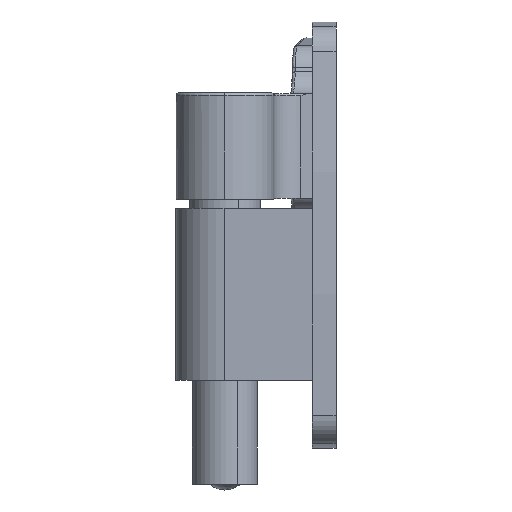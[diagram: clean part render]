
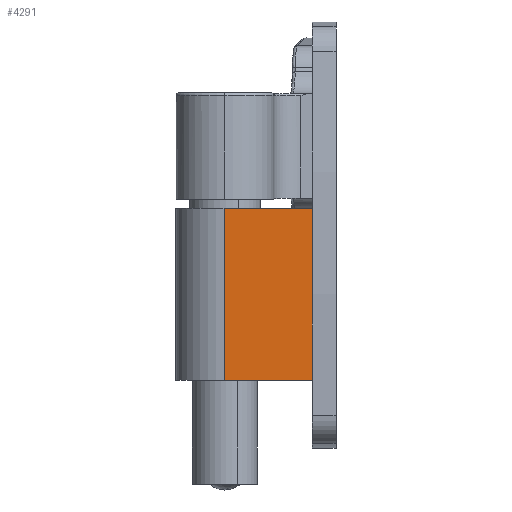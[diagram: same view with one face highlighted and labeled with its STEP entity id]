
A CAD part, left-side view. The second image highlights one B-rep face of the part: STEP entity #4291.
In plain terms, the highlighted planar face has unit normal (-1, 0.017, 0).
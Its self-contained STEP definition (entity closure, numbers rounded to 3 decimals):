
#185 = DIRECTION ( 'NONE',  ( 0.017, 1., 0. ) ) ;
#499 = CARTESIAN_POINT ( 'NONE',  ( -17.13, 0.289, 112.5 ) ) ;
#541 = CARTESIAN_POINT ( 'NONE',  ( -17., 8., 21.5 ) ) ;
#722 = CARTESIAN_POINT ( 'NONE',  ( -16.498, 37.778, 21.5 ) ) ;
#994 = VECTOR ( 'NONE', #2738, 1000. ) ;
#1017 = CARTESIAN_POINT ( 'NONE',  ( -16.224, 53.987, 21.5 ) ) ;
#1138 = ORIENTED_EDGE ( 'NONE', *, *, #4414, .F. ) ;
#1421 = FACE_OUTER_BOUND ( 'NONE', #2774, .T. ) ;
#1457 = CARTESIAN_POINT ( 'NONE',  ( -17., 8., 79.5 ) ) ;
#1904 = CARTESIAN_POINT ( 'NONE',  ( -16.498, 37.778, 112.5 ) ) ;
#1974 = VECTOR ( 'NONE', #4326, 1000. ) ;
#1981 = DIRECTION ( 'NONE',  ( 0., 0., 1. ) ) ;
#2136 = VERTEX_POINT ( 'NONE', #4165 ) ;
#2157 = EDGE_CURVE ( 'NONE', #3816, #3079, #2654, .T. ) ;
#2247 = LINE ( 'NONE', #2478, #1974 ) ;
#2248 = DIRECTION ( 'NONE',  ( 0.017, 1., 0. ) ) ;
#2446 = EDGE_CURVE ( 'NONE', #2136, #3079, #2247, .T. ) ;
#2478 = CARTESIAN_POINT ( 'NONE',  ( -16.224, 53.987, 79.5 ) ) ;
#2522 = VECTOR ( 'NONE', #1981, 1000. ) ;
#2654 = LINE ( 'NONE', #4906, #2522 ) ;
#2738 = DIRECTION ( 'NONE',  ( 0., 0., -1. ) ) ;
#2774 = EDGE_LOOP ( 'NONE', ( #5265, #1138, #3016, #3697 ) ) ;
#3016 = ORIENTED_EDGE ( 'NONE', *, *, #2157, .T. ) ;
#3079 = VERTEX_POINT ( 'NONE', #1457 ) ;
#3097 = PLANE ( 'NONE',  #4701 ) ;
#3697 = ORIENTED_EDGE ( 'NONE', *, *, #2446, .F. ) ;
#3816 = VERTEX_POINT ( 'NONE', #541 ) ;
#4080 = VECTOR ( 'NONE', #185, 1000. ) ;
#4165 = CARTESIAN_POINT ( 'NONE',  ( -16.498, 37.778, 79.5 ) ) ;
#4291 = ADVANCED_FACE ( 'NONE', ( #1421 ), #3097, .F. ) ;
#4326 = DIRECTION ( 'NONE',  ( -0.017, -1., 0. ) ) ;
#4414 = EDGE_CURVE ( 'NONE', #3816, #5537, #5236, .T. ) ;
#4701 = AXIS2_PLACEMENT_3D ( 'NONE', #499, #4863, #2248 ) ;
#4814 = EDGE_CURVE ( 'NONE', #2136, #5537, #5642, .T. ) ;
#4863 = DIRECTION ( 'NONE',  ( 1., -0.017, 0. ) ) ;
#4906 = CARTESIAN_POINT ( 'NONE',  ( -17., 8., 79.5 ) ) ;
#5236 = LINE ( 'NONE', #1017, #4080 ) ;
#5265 = ORIENTED_EDGE ( 'NONE', *, *, #4814, .T. ) ;
#5537 = VERTEX_POINT ( 'NONE', #722 ) ;
#5642 = LINE ( 'NONE', #1904, #994 ) ;
